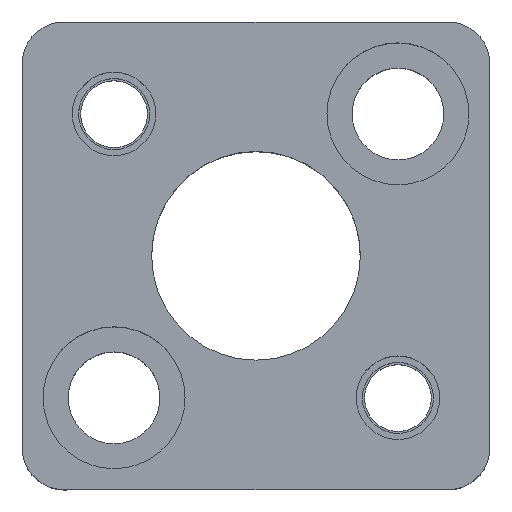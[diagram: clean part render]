
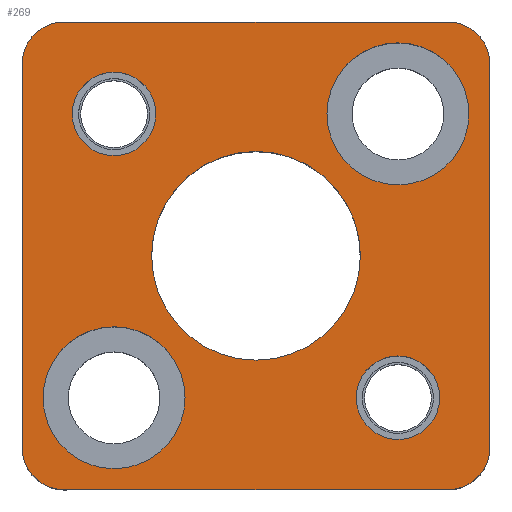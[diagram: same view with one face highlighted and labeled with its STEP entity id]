
A CAD part, top view. The second image highlights one B-rep face of the part: STEP entity #269.
In plain terms, the highlighted planar face has unit normal (0, 0, 1).
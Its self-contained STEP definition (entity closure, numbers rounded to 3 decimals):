
#111=FACE_BOUND('',#400,.T.);
#112=FACE_BOUND('',#401,.T.);
#113=FACE_BOUND('',#402,.T.);
#114=FACE_BOUND('',#403,.T.);
#115=FACE_BOUND('',#404,.T.);
#116=FACE_BOUND('',#405,.T.);
#162=CIRCLE('',#1033,5.);
#164=CIRCLE('',#1037,5.);
#166=CIRCLE('',#1041,5.);
#168=CIRCLE('',#1045,5.);
#181=CIRCLE('',#1071,8.5);
#183=CIRCLE('',#1074,8.5);
#185=CIRCLE('',#1078,8.5);
#187=CIRCLE('',#1081,8.5);
#211=CIRCLE('',#1124,5.);
#212=CIRCLE('',#1125,5.);
#213=CIRCLE('',#1126,5.);
#214=CIRCLE('',#1127,5.);
#215=CIRCLE('',#1128,12.5);
#216=CIRCLE('',#1129,12.5);
#269=ADVANCED_FACE('',(#111,#112,#113,#114,#115,#116),#297,.T.);
#297=PLANE('',#1130);
#400=EDGE_LOOP('',(#614,#615,#616,#617,#618,#619,#620,#621));
#401=EDGE_LOOP('',(#622,#623));
#402=EDGE_LOOP('',(#624,#625));
#403=EDGE_LOOP('',(#626,#627));
#404=EDGE_LOOP('',(#628,#629));
#405=EDGE_LOOP('',(#630,#631));
#614=ORIENTED_EDGE('',*,*,#788,.T.);
#615=ORIENTED_EDGE('',*,*,#785,.T.);
#616=ORIENTED_EDGE('',*,*,#782,.T.);
#617=ORIENTED_EDGE('',*,*,#779,.T.);
#618=ORIENTED_EDGE('',*,*,#776,.T.);
#619=ORIENTED_EDGE('',*,*,#773,.T.);
#620=ORIENTED_EDGE('',*,*,#794,.T.);
#621=ORIENTED_EDGE('',*,*,#791,.T.);
#622=ORIENTED_EDGE('',*,*,#881,.F.);
#623=ORIENTED_EDGE('',*,*,#882,.F.);
#624=ORIENTED_EDGE('',*,*,#883,.F.);
#625=ORIENTED_EDGE('',*,*,#884,.F.);
#626=ORIENTED_EDGE('',*,*,#833,.F.);
#627=ORIENTED_EDGE('',*,*,#829,.F.);
#628=ORIENTED_EDGE('',*,*,#827,.F.);
#629=ORIENTED_EDGE('',*,*,#823,.F.);
#630=ORIENTED_EDGE('',*,*,#885,.T.);
#631=ORIENTED_EDGE('',*,*,#886,.T.);
#687=VERTEX_POINT('',#1461);
#688=VERTEX_POINT('',#1463);
#690=VERTEX_POINT('',#1469);
#692=VERTEX_POINT('',#1475);
#694=VERTEX_POINT('',#1481);
#696=VERTEX_POINT('',#1487);
#698=VERTEX_POINT('',#1493);
#700=VERTEX_POINT('',#1499);
#717=VERTEX_POINT('',#1574);
#718=VERTEX_POINT('',#1575);
#721=VERTEX_POINT('',#1587);
#722=VERTEX_POINT('',#1588);
#757=VERTEX_POINT('',#1698);
#758=VERTEX_POINT('',#1699);
#759=VERTEX_POINT('',#1702);
#760=VERTEX_POINT('',#1703);
#761=VERTEX_POINT('',#1706);
#762=VERTEX_POINT('',#1707);
#773=EDGE_CURVE('',#688,#687,#906,.T.);
#776=EDGE_CURVE('',#690,#688,#162,.T.);
#779=EDGE_CURVE('',#692,#690,#910,.T.);
#782=EDGE_CURVE('',#694,#692,#164,.T.);
#785=EDGE_CURVE('',#696,#694,#914,.T.);
#788=EDGE_CURVE('',#698,#696,#166,.T.);
#791=EDGE_CURVE('',#700,#698,#918,.T.);
#794=EDGE_CURVE('',#687,#700,#168,.T.);
#823=EDGE_CURVE('',#717,#718,#181,.T.);
#827=EDGE_CURVE('',#718,#717,#183,.T.);
#829=EDGE_CURVE('',#721,#722,#185,.T.);
#833=EDGE_CURVE('',#722,#721,#187,.T.);
#881=EDGE_CURVE('',#757,#758,#211,.T.);
#882=EDGE_CURVE('',#758,#757,#212,.T.);
#883=EDGE_CURVE('',#759,#760,#213,.T.);
#884=EDGE_CURVE('',#760,#759,#214,.T.);
#885=EDGE_CURVE('',#761,#762,#215,.T.);
#886=EDGE_CURVE('',#762,#761,#216,.T.);
#906=LINE('',#1462,#969);
#910=LINE('',#1474,#973);
#914=LINE('',#1486,#977);
#918=LINE('',#1498,#981);
#969=VECTOR('',#1155,1.);
#973=VECTOR('',#1167,1.);
#977=VECTOR('',#1179,1.);
#981=VECTOR('',#1191,1.);
#1033=AXIS2_PLACEMENT_3D('',#1468,#1161,#1162);
#1037=AXIS2_PLACEMENT_3D('',#1480,#1173,#1174);
#1041=AXIS2_PLACEMENT_3D('',#1492,#1185,#1186);
#1045=AXIS2_PLACEMENT_3D('',#1503,#1197,#1198);
#1071=AXIS2_PLACEMENT_3D('',#1573,#1261,#1262);
#1074=AXIS2_PLACEMENT_3D('',#1582,#1269,#1270);
#1078=AXIS2_PLACEMENT_3D('',#1586,#1277,#1278);
#1081=AXIS2_PLACEMENT_3D('',#1595,#1285,#1286);
#1124=AXIS2_PLACEMENT_3D('',#1697,#1394,#1395);
#1125=AXIS2_PLACEMENT_3D('',#1700,#1396,#1397);
#1126=AXIS2_PLACEMENT_3D('',#1701,#1398,#1399);
#1127=AXIS2_PLACEMENT_3D('',#1704,#1400,#1401);
#1128=AXIS2_PLACEMENT_3D('',#1705,#1402,#1403);
#1129=AXIS2_PLACEMENT_3D('',#1708,#1404,#1405);
#1130=AXIS2_PLACEMENT_3D('',#1709,#1406,#1407);
#1155=DIRECTION('',(0.,-1.,0.));
#1161=DIRECTION('',(0.,0.,1.));
#1162=DIRECTION('',(0.707,-0.707,0.));
#1167=DIRECTION('',(-1.,0.,0.));
#1173=DIRECTION('',(0.,0.,1.));
#1174=DIRECTION('',(-0.707,-0.707,0.));
#1179=DIRECTION('',(0.,1.,0.));
#1185=DIRECTION('',(0.,0.,1.));
#1186=DIRECTION('',(-0.707,0.707,0.));
#1191=DIRECTION('',(1.,0.,0.));
#1197=DIRECTION('',(0.,0.,1.));
#1198=DIRECTION('',(0.707,0.707,0.));
#1261=DIRECTION('',(0.,0.,1.));
#1262=DIRECTION('',(-1.,0.,0.));
#1269=DIRECTION('',(0.,0.,1.));
#1270=DIRECTION('',(1.,0.,0.));
#1277=DIRECTION('',(0.,0.,1.));
#1278=DIRECTION('',(-1.,0.,0.));
#1285=DIRECTION('',(0.,0.,1.));
#1286=DIRECTION('',(1.,0.,0.));
#1394=DIRECTION('',(0.,0.,1.));
#1395=DIRECTION('',(1.,0.,0.));
#1396=DIRECTION('',(0.,0.,1.));
#1397=DIRECTION('',(-1.,0.,0.));
#1398=DIRECTION('',(0.,0.,1.));
#1399=DIRECTION('',(1.,0.,0.));
#1400=DIRECTION('',(0.,0.,1.));
#1401=DIRECTION('',(-1.,0.,0.));
#1402=DIRECTION('',(0.,0.,-1.));
#1403=DIRECTION('',(-1.,0.,0.));
#1404=DIRECTION('',(0.,0.,-1.));
#1405=DIRECTION('',(1.,0.,0.));
#1406=DIRECTION('',(0.,0.,1.));
#1407=DIRECTION('',(-1.,0.,0.));
#1461=CARTESIAN_POINT('',(-28.,-23.,30.));
#1462=CARTESIAN_POINT('',(-28.,23.,30.));
#1463=CARTESIAN_POINT('',(-28.,23.,30.));
#1468=CARTESIAN_POINT('',(-23.,23.,30.));
#1469=CARTESIAN_POINT('',(-23.,28.,30.));
#1474=CARTESIAN_POINT('',(-23.,28.,30.));
#1475=CARTESIAN_POINT('',(23.,28.,30.));
#1480=CARTESIAN_POINT('',(23.,23.,30.));
#1481=CARTESIAN_POINT('',(28.,23.,30.));
#1486=CARTESIAN_POINT('',(28.,23.,30.));
#1487=CARTESIAN_POINT('',(28.,-23.,30.));
#1492=CARTESIAN_POINT('',(23.,-23.,30.));
#1493=CARTESIAN_POINT('',(23.,-28.,30.));
#1498=CARTESIAN_POINT('',(-23.,-28.,30.));
#1499=CARTESIAN_POINT('',(-23.,-28.,30.));
#1503=CARTESIAN_POINT('',(-23.,-23.,30.));
#1573=CARTESIAN_POINT('',(-17.,-17.,30.));
#1574=CARTESIAN_POINT('',(-17.,-25.5,30.));
#1575=CARTESIAN_POINT('',(-17.,-8.5,30.));
#1582=CARTESIAN_POINT('',(-17.,-17.,30.));
#1586=CARTESIAN_POINT('',(17.,17.,30.));
#1587=CARTESIAN_POINT('',(17.,8.5,30.));
#1588=CARTESIAN_POINT('',(17.,25.5,30.));
#1595=CARTESIAN_POINT('',(17.,17.,30.));
#1697=CARTESIAN_POINT('',(-17.,17.,30.));
#1698=CARTESIAN_POINT('',(-17.,22.,30.));
#1699=CARTESIAN_POINT('',(-17.,12.,30.));
#1700=CARTESIAN_POINT('',(-17.,17.,30.));
#1701=CARTESIAN_POINT('',(17.,-17.,30.));
#1702=CARTESIAN_POINT('',(17.,-12.,30.));
#1703=CARTESIAN_POINT('',(17.,-22.,30.));
#1704=CARTESIAN_POINT('',(17.,-17.,30.));
#1705=CARTESIAN_POINT('',(0.,0.,30.));
#1706=CARTESIAN_POINT('',(0.,12.5,30.));
#1707=CARTESIAN_POINT('',(0.,-12.5,30.));
#1708=CARTESIAN_POINT('',(0.,0.,30.));
#1709=CARTESIAN_POINT('',(23.,-28.,30.));
